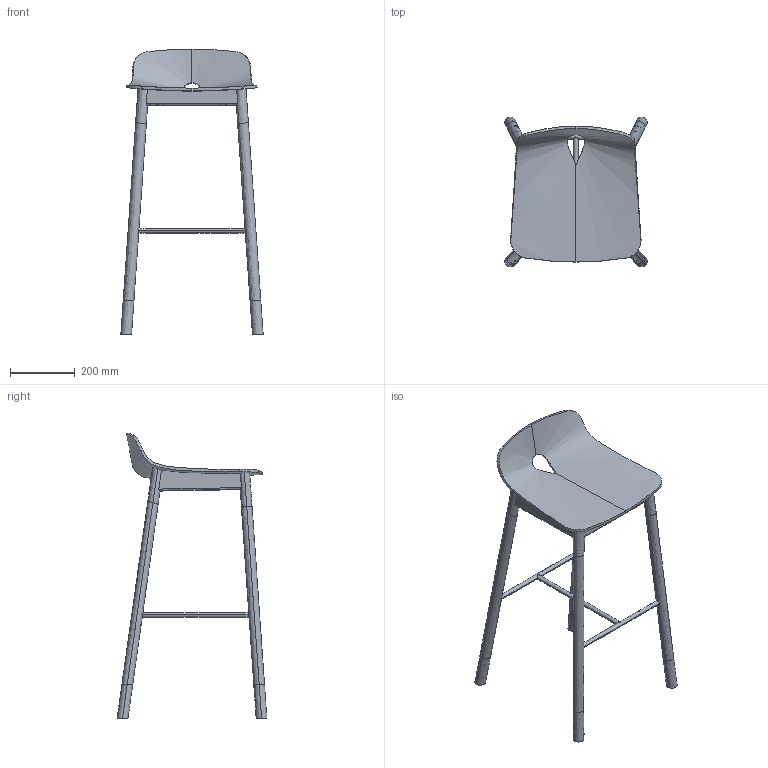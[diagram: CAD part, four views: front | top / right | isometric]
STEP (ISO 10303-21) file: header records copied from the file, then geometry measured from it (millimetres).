
FILE_DESCRIPTION(/* description */ (''),/* implementation_level */ '2;1');
FILE_NAME(/* name */ 'Mono bar stol',/* time_stamp */ '2019-09-17T12:24:44+02:00',/* author */ (''),/* organization */ (''),/* preprocessor_version */ 'ST-DEVELOPER v15',/* originating_system */ '',/* authorisation */ '');
FILE_SCHEMA (('AUTOMOTIVE_DESIGN'));
Length unit declared in the file: millimetre
Products named in the file (1): Document
Bounding box: 438.57 x 461.78 x 879.7 mm (x, y, z)
Volume: 2612804.8 mm3; surface area: 1118355.8 mm2
Topology: 8 solids, 16 shells, 89 faces, 199 edges, 132 vertices
Faces by surface type: bspline 75, plane 14
Entity records: 27611 total; most frequent: CARTESIAN_POINT 26195, ORIENTED_EDGE 382, EDGE_CURVE 199, B_SPLINE_CURVE_WITH_KNOTS 162, VERTEX_POINT 132, ADVANCED_FACE 89, FACE_OUTER_BOUND 89, EDGE_LOOP 89
